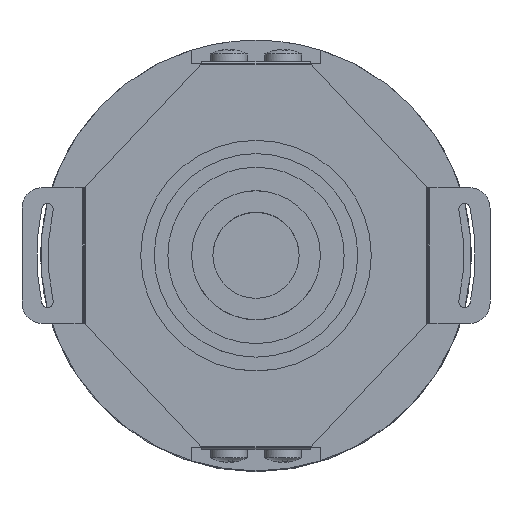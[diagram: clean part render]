
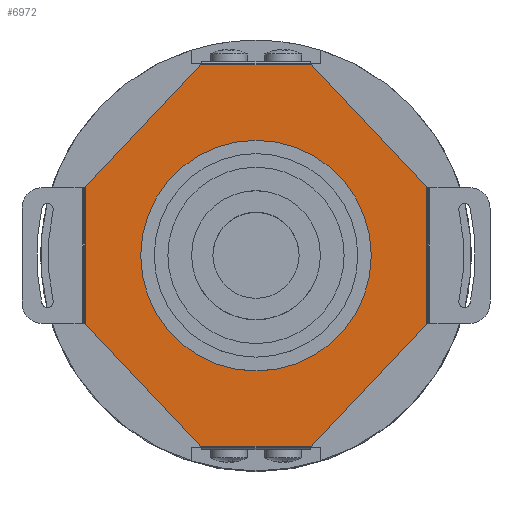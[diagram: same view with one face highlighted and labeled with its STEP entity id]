
A CAD part, top view. The second image highlights one B-rep face of the part: STEP entity #6972.
In plain terms, the highlighted planar face has unit normal (0, 0, 1).
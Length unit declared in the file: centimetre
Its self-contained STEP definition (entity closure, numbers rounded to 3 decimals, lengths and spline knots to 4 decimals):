
#1820=VECTOR('',#8261,1.);
#1830=VECTOR('',#8275,1.);
#1844=VECTOR('',#8309,1.);
#1847=VECTOR('',#8313,1.);
#1870=VECTOR('',#8377,1.);
#1873=VECTOR('',#8383,1.);
#1874=VECTOR('',#8384,1.);
#1875=VECTOR('',#8385,1.);
#2171=LINE('',#9917,#1820);
#2181=LINE('',#9959,#1830);
#2195=LINE('',#10024,#1844);
#2198=LINE('',#10050,#1847);
#2221=LINE('',#10151,#1870);
#2224=LINE('',#10182,#1873);
#2225=LINE('',#10184,#1874);
#2226=LINE('',#10185,#1875);
#2502=PLANE('',#7425);
#2715=VERTEX_POINT('',#9897);
#2719=VERTEX_POINT('',#9918);
#2728=VERTEX_POINT('',#9960);
#2737=VERTEX_POINT('',#10016);
#2739=VERTEX_POINT('',#10025);
#2741=VERTEX_POINT('',#10051);
#2771=VERTEX_POINT('',#10152);
#2773=VERTEX_POINT('',#10183);
#2774=VERTEX_POINT('',#10187);
#3230=CIRCLE('',#7426,1.7);
#3616=EDGE_CURVE('',#2719,#2715,#2171,.T.);
#3628=EDGE_CURVE('',#2715,#2728,#2181,.T.);
#3649=EDGE_CURVE('',#2739,#2737,#2195,.T.);
#3653=EDGE_CURVE('',#2737,#2741,#2198,.T.);
#3690=EDGE_CURVE('',#2728,#2771,#2221,.T.);
#3695=EDGE_CURVE('',#2773,#2719,#2224,.T.);
#3696=EDGE_CURVE('',#2741,#2773,#2225,.T.);
#3697=EDGE_CURVE('',#2771,#2739,#2226,.T.);
#3698=EDGE_CURVE('',#2774,#2774,#3230,.T.);
#4673=ORIENTED_EDGE('',*,*,#3616,.F.);
#4674=ORIENTED_EDGE('',*,*,#3695,.F.);
#4675=ORIENTED_EDGE('',*,*,#3696,.F.);
#4676=ORIENTED_EDGE('',*,*,#3653,.F.);
#4677=ORIENTED_EDGE('',*,*,#3649,.F.);
#4678=ORIENTED_EDGE('',*,*,#3697,.F.);
#4679=ORIENTED_EDGE('',*,*,#3690,.F.);
#4680=ORIENTED_EDGE('',*,*,#3628,.F.);
#4681=ORIENTED_EDGE('',*,*,#3698,.F.);
#5981=EDGE_LOOP('',(#4673,#4674,#4675,#4676,#4677,#4678,#4679,#4680));
#5982=EDGE_LOOP('',(#4681));
#6499=FACE_BOUND('',#5981,.T.);
#6500=FACE_BOUND('',#5982,.T.);
#6972=ADVANCED_FACE('',(#6499,#6500),#2502,.T.);
#7425=AXIS2_PLACEMENT_3D('',#10181,#8382,$);
#7426=AXIS2_PLACEMENT_3D('',#10186,#8386,#8387);
#8261=DIRECTION('',(0.,-1.,0.));
#8275=DIRECTION('',(-0.686,-0.728,0.));
#8309=DIRECTION('',(0.,1.,0.));
#8313=DIRECTION('',(0.686,0.728,0.));
#8377=DIRECTION('',(-1.,0.,0.));
#8382=DIRECTION('',(0.,0.,1.));
#8383=DIRECTION('',(0.686,-0.728,0.));
#8384=DIRECTION('',(1.,0.,0.));
#8385=DIRECTION('',(-0.686,0.728,0.));
#8386=DIRECTION('',(0.,0.,1.));
#8387=DIRECTION('',(1.7,0.,0.));
#9897=CARTESIAN_POINT('',(2.5123,-1.0135,0.0254));
#9917=CARTESIAN_POINT('',(2.5123,0.,0.0254));
#9918=CARTESIAN_POINT('',(2.5123,1.0135,0.0254));
#9959=CARTESIAN_POINT('',(2.525,-1.,0.0254));
#9960=CARTESIAN_POINT('',(0.812,-2.8173,0.0254));
#10016=CARTESIAN_POINT('',(-2.5123,1.0135,0.0254));
#10024=CARTESIAN_POINT('',(-2.5123,0.,0.0254));
#10025=CARTESIAN_POINT('',(-2.5123,-1.0135,0.0254));
#10050=CARTESIAN_POINT('',(-2.525,1.,0.0254));
#10051=CARTESIAN_POINT('',(-0.812,2.8173,0.0254));
#10151=CARTESIAN_POINT('',(0.,-2.8173,0.0254));
#10152=CARTESIAN_POINT('',(-0.812,-2.8173,0.0254));
#10181=CARTESIAN_POINT('',(0.,0.,
0.0254));
#10182=CARTESIAN_POINT('',(0.8,2.83,0.0254));
#10183=CARTESIAN_POINT('',(0.812,2.8173,0.0254));
#10184=CARTESIAN_POINT('',(0.,2.8173,0.0254));
#10185=CARTESIAN_POINT('',(-0.8,-2.83,0.0254));
#10186=CARTESIAN_POINT('',(0.,0.,0.0254));
#10187=CARTESIAN_POINT('',(1.7,0.,0.0254));
